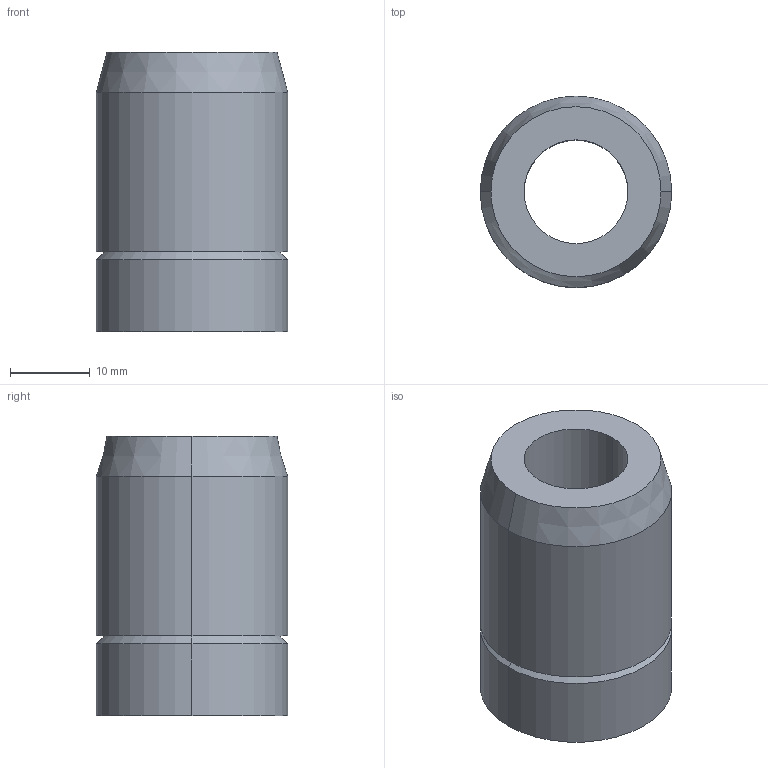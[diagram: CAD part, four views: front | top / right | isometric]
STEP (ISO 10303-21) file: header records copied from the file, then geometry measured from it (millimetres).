
FILE_DESCRIPTION(/* description */ (''),/* implementation_level */ '2;1');
FILE_NAME(/* name */ '3d_s22_07093_r00.stp',/* time_stamp */ '2011-01-10T14:11:30+09:00',/* author */ ('MISUMI'),/* organization */ (''),/* preprocessor_version */ 'ST-DEVELOPER v11',/* originating_system */ 'UGS - NX 5.0',/* authorisation */ '');
FILE_SCHEMA (('CONFIG_CONTROL_DESIGN'));
Length unit declared in the file: millimetre
Products named in the file (1): 3d_s22_07093_r00
Bounding box: 24 x 24 x 35 mm (x, y, z)
Volume: 10908.2 mm3; surface area: 4702.9 mm2
Topology: 1 solids, 1 shells, 13 faces, 26 edges, 16 vertices
Faces by surface type: cylinder 6, cone 4, plane 3
Entity records: 434 total; most frequent: DIRECTION 70, CARTESIAN_POINT 56, ORIENTED_EDGE 52, AXIS2_PLACEMENT_3D 30, EDGE_CURVE 26, EDGE_LOOP 16, CIRCLE 16, VERTEX_POINT 16
